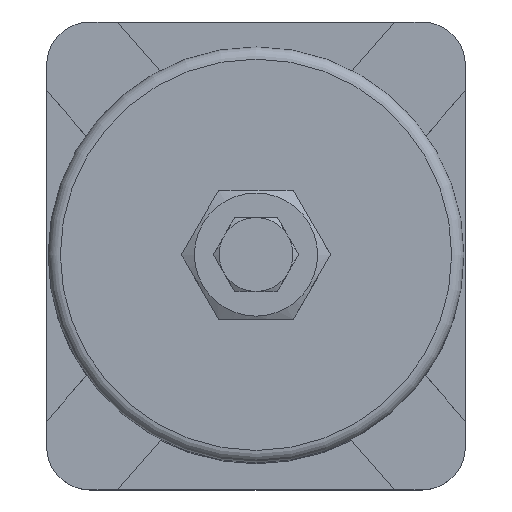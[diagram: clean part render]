
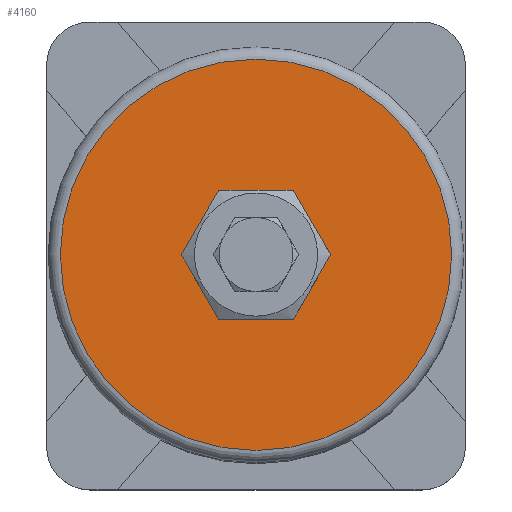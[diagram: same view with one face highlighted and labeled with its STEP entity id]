
A CAD part, top view. The second image highlights one B-rep face of the part: STEP entity #4160.
In plain terms, the highlighted planar face has unit normal (0, 0, 1).
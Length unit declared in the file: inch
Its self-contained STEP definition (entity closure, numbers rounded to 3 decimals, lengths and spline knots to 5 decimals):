
#1006=PLANE('',#4449);
#1087=FACE_BOUND('',#1544,.T.);
#1263=FACE_OUTER_BOUND('',#1543,.T.);
#1543=EDGE_LOOP('',(#3413));
#1544=EDGE_LOOP('',(#3414));
#1687=CIRCLE('',#4434,0.4375);
#1693=CIRCLE('',#4448,1.9863);
#1988=VERTEX_POINT('',#6394);
#1994=VERTEX_POINT('',#6414);
#2480=EDGE_CURVE('',#1988,#1988,#1687,.T.);
#2486=EDGE_CURVE('',#1994,#1994,#1693,.T.);
#3413=ORIENTED_EDGE('',*,*,#2486,.T.);
#3414=ORIENTED_EDGE('',*,*,#2480,.T.);
#4160=ADVANCED_FACE('',(#1263,#1087),#1006,.T.);
#4434=AXIS2_PLACEMENT_3D('',#6395,#5223,#5224);
#4448=AXIS2_PLACEMENT_3D('',#6415,#5251,#5252);
#4449=AXIS2_PLACEMENT_3D('',#6416,#5253,#5254);
#5223=DIRECTION('center_axis',(0.,0.,
-1.));
#5224=DIRECTION('ref_axis',(0.,-1.,0.));
#5251=DIRECTION('center_axis',(0.,0.,
1.));
#5252=DIRECTION('ref_axis',(-1.,0.,0.));
#5253=DIRECTION('center_axis',(0.,0.,
1.));
#5254=DIRECTION('ref_axis',(0.,-1.,0.));
#6394=CARTESIAN_POINT('',(0.,-0.4375,7.25));
#6395=CARTESIAN_POINT('Origin',(0.,0.,
7.25));
#6414=CARTESIAN_POINT('',(-1.9863,0.,7.25));
#6415=CARTESIAN_POINT('Origin',(0.,0.,
7.25));
#6416=CARTESIAN_POINT('Origin',(-0.99315,0.,
7.25));
